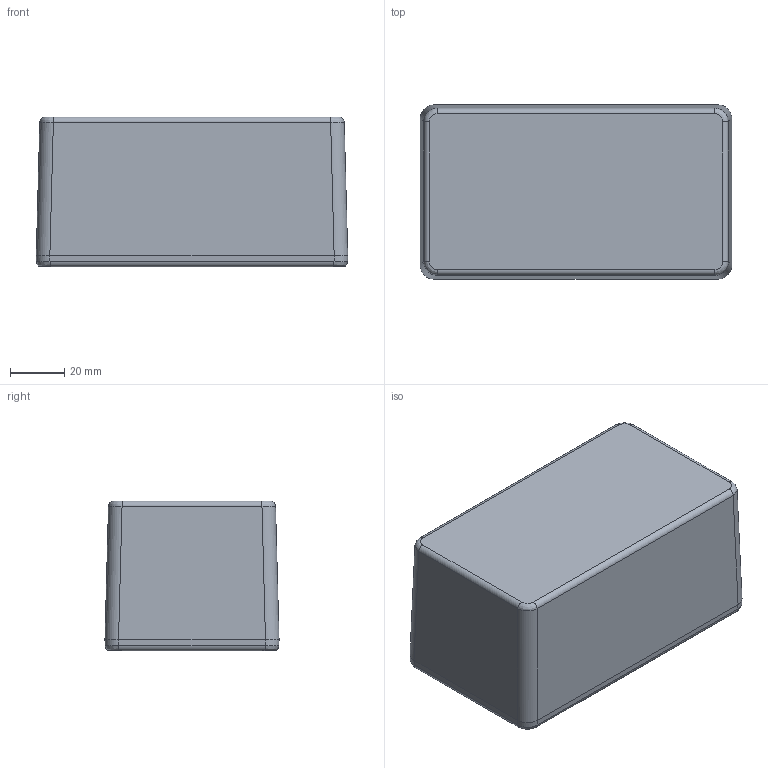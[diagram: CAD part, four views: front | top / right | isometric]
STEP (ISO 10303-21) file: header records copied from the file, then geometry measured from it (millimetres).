
FILE_DESCRIPTION(/* description */ (''),/* implementation_level */ '2;1');
FILE_NAME(/* name */ 'E:\Eng\Customer Service\Drawings\new 1550\STEP\1550D\1550D.iam.stp',/* time_stamp */ '2014-10-29T10:13:45-04:00',/* author */ ('fwarzocha'),/* organization */ (''),/* preprocessor_version */ 'ST-DEVELOPER v15.2',/* originating_system */ 'Autodesk Inventor 2014',/* authorisation */ '');
FILE_SCHEMA (('AUTOMOTIVE_DESIGN { 1 0 10303 214 3 1 1 }'));
Length unit declared in the file: millimetre
Products named in the file (4): 1550D BOX; 1550B-D LID; SC1550 (screw M3.5-0.6X 12mm FH); 1550D
Bounding box: 114.5 x 64 x 55.1 mm (x, y, z)
Volume: 59684.7 mm3; surface area: 66273.8 mm2
Topology: 6 solids, 6 shells, 877 faces, 2345 edges, 1530 vertices
Faces by surface type: plane 355, bspline 342, cone 72, cylinder 72, torus 36
Full cylindrical faces by diameter (mm): 3 x4, 3.43 x4, 4.1 x4
Entity records: 40343 total; most frequent: CARTESIAN_POINT 22591, ORIENTED_EDGE 4176, DIRECTION 2687, EDGE_CURVE 2088, VERTEX_POINT 1377, LINE 1085, VECTOR 1085, EDGE_LOOP 895
